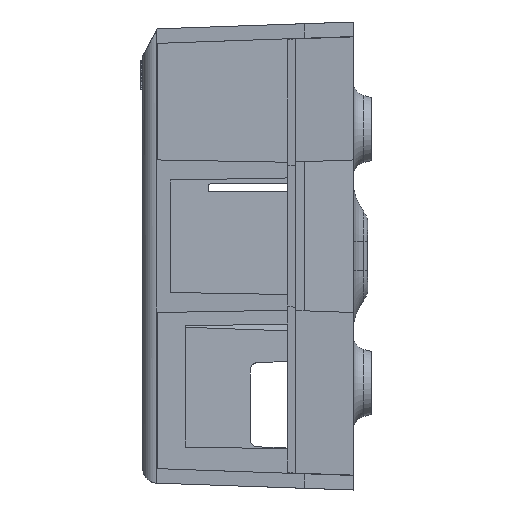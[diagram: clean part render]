
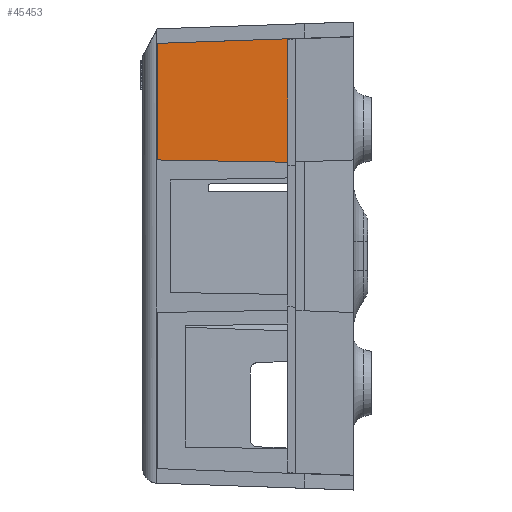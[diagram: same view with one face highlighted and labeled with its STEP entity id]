
A CAD part, left-side view. The second image highlights one B-rep face of the part: STEP entity #45453.
In plain terms, the highlighted planar face has unit normal (-1, -0.018, 0).
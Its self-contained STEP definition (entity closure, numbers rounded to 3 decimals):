
#631 = ORIENTED_EDGE ( 'PI312', *, *, #26876, .F. ) ;
#1386 = DIRECTION ( 'PI312',  ( 0.017, -1., 0. ) ) ;
#4102 = ORIENTED_EDGE ( 'PI312', *, *, #10490, .F. ) ;
#4658 = DIRECTION ( 'PI312',  ( -1., -0.017, 0. ) ) ;
#4742 = VECTOR ( 'PI312', #35253, 1000. ) ;
#7273 = DIRECTION ( 'PI312',  ( 0., 0., 1. ) ) ;
#7518 = LINE ( 'PI312', #34551, #41399 ) ;
#7526 = CARTESIAN_POINT ( 'PI312',  ( -15.214, -9.784, 32.741 ) ) ;
#8606 = VECTOR ( 'PI312', #27722, 1000. ) ;
#10490 = EDGE_CURVE ( 'PI312', #20265, #15244, #45534, .T. ) ;
#12063 = EDGE_CURVE ( 'PI312', #39136, #15244, #17078, .T. ) ;
#13292 = CARTESIAN_POINT ( 'PI312',  ( -14.9, -27.784, 16.358 ) ) ;
#13484 = CARTESIAN_POINT ( 'PI312',  ( -14.745, -36.657, 33.679 ) ) ;
#14760 = CARTESIAN_POINT ( 'PI312',  ( -15.214, -9.784, 0. ) ) ;
#15211 = LINE ( 'PI312', #14760, #43483 ) ;
#15244 = VERTEX_POINT ( 'PI312', #28962 ) ;
#17078 = LINE ( 'PI312', #17282, #4742 ) ;
#17282 = CARTESIAN_POINT ( 'PI312',  ( -14.9, -27.784, 0. ) ) ;
#19376 = EDGE_CURVE ( 'PI312', #20512, #39136, #7518, .T. ) ;
#20265 = VERTEX_POINT ( 'PI312', #7526 ) ;
#20512 = VERTEX_POINT ( 'PI312', #31128 ) ;
#22434 = PLANE ( 'PI312',  #25177 ) ;
#25177 = AXIS2_PLACEMENT_3D ( 'PI312', #36687, #4658, #1386 ) ;
#26876 = EDGE_CURVE ( 'PI312', #20512, #20265, #15211, .T. ) ;
#27722 = DIRECTION ( 'PI312',  ( 0.017, -0.999, 0.035 ) ) ;
#28962 = CARTESIAN_POINT ( 'PI312',  ( -14.9, -27.784, 33.369 ) ) ;
#29221 = FACE_OUTER_BOUND ( 'PI312', #29303, .T. ) ;
#29303 = EDGE_LOOP ( 'PI312', ( #631, #36316, #43881, #4102 ) ) ;
#31128 = CARTESIAN_POINT ( 'PI312',  ( -15.214, -9.784, 16.672 ) ) ;
#34551 = CARTESIAN_POINT ( 'PI312',  ( -14.896, -28.03, 16.354 ) ) ;
#35014 = DIRECTION ( 'PI312',  ( 0.017, -1., -0.017 ) ) ;
#35253 = DIRECTION ( 'PI312',  ( 0., 0., 1. ) ) ;
#36316 = ORIENTED_EDGE ( 'PI312', *, *, #19376, .T. ) ;
#36687 = CARTESIAN_POINT ( 'PI312',  ( -14.9, -27.77, 0. ) ) ;
#39136 = VERTEX_POINT ( 'PI312', #13292 ) ;
#41399 = VECTOR ( 'PI312', #35014, 1000. ) ;
#43483 = VECTOR ( 'PI312', #7273, 1000. ) ;
#43881 = ORIENTED_EDGE ( 'PI312', *, *, #12063, .T. ) ;
#45453 = ADVANCED_FACE ( 'PI312', ( #29221 ), #22434, .T. ) ;
#45534 = LINE ( 'PI312', #13484, #8606 ) ;
